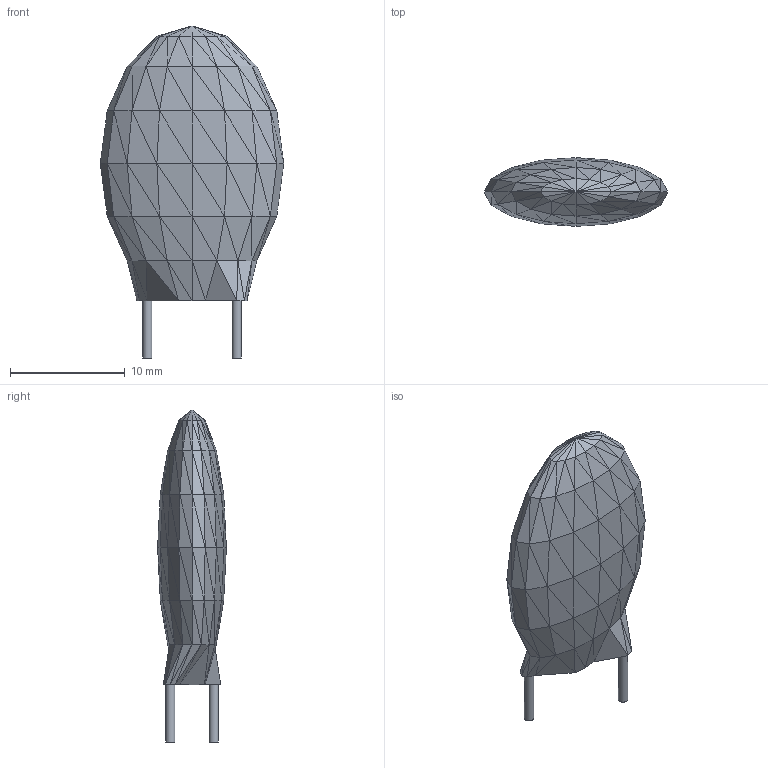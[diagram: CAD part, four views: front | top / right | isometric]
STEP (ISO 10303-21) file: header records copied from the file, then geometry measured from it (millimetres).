
FILE_DESCRIPTION(('STEP AP214'),'1');
FILE_NAME('TRES_SL15 60004-AB_AMT','2023-11-24T03:10:04',(''),(''),'','','');
FILE_SCHEMA(('AUTOMOTIVE_DESIGN'));
Length unit declared in the file: millimetre
Products named in the file (1): product
Bounding box: 16 x 5.99 x 28.96 mm (x, y, z)
Volume: 1168.6 mm3; surface area: 760.3 mm2
Topology: 3 solids, 3 shells, 230 faces, 342 edges, 118 vertices
Faces by surface type: plane 228, cylinder 2
Full cylindrical faces by diameter (mm): 0.813 x2
Entity records: 4546 total; most frequent: DIRECTION 810, ORIENTED_EDGE 680, CARTESIAN_POINT 355, EDGE_CURVE 340, LINE 336, VECTOR 336, AXIS2_PLACEMENT_3D 237, EDGE_LOOP 232
